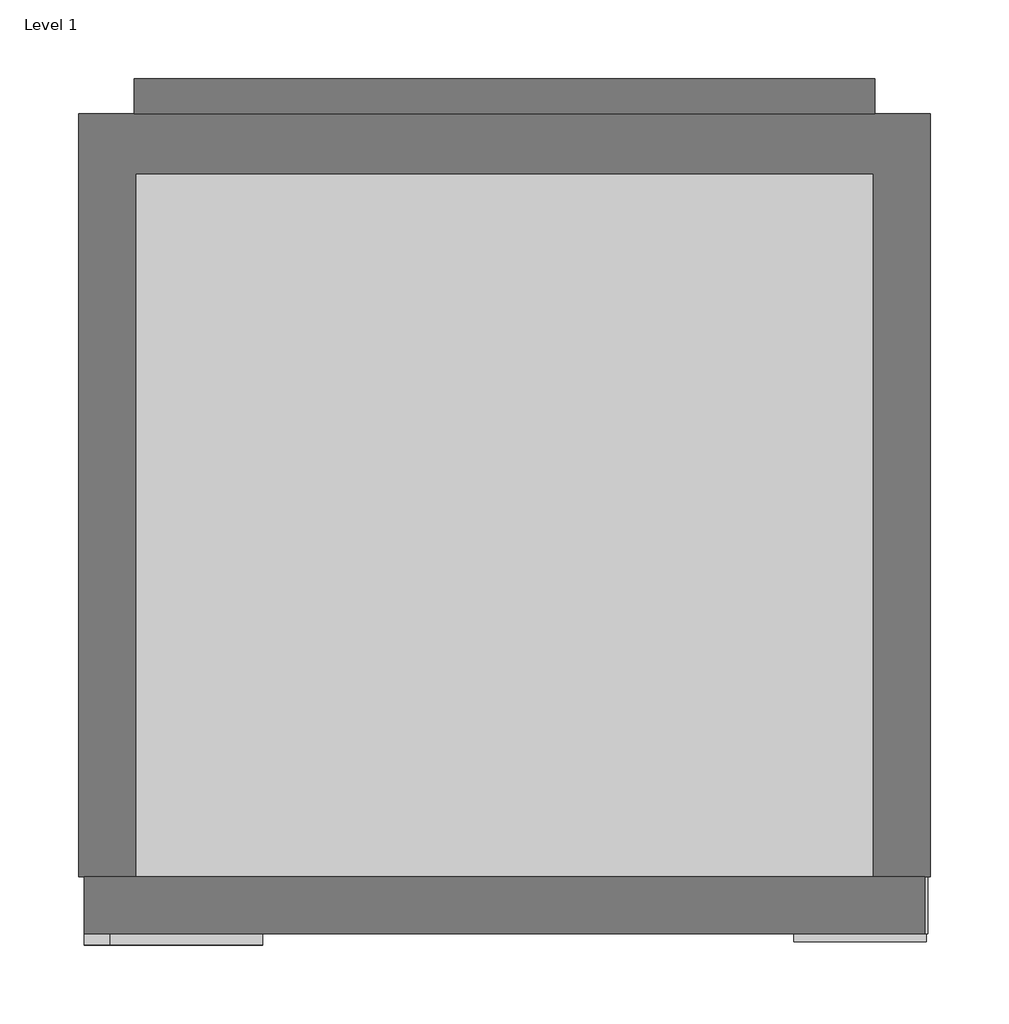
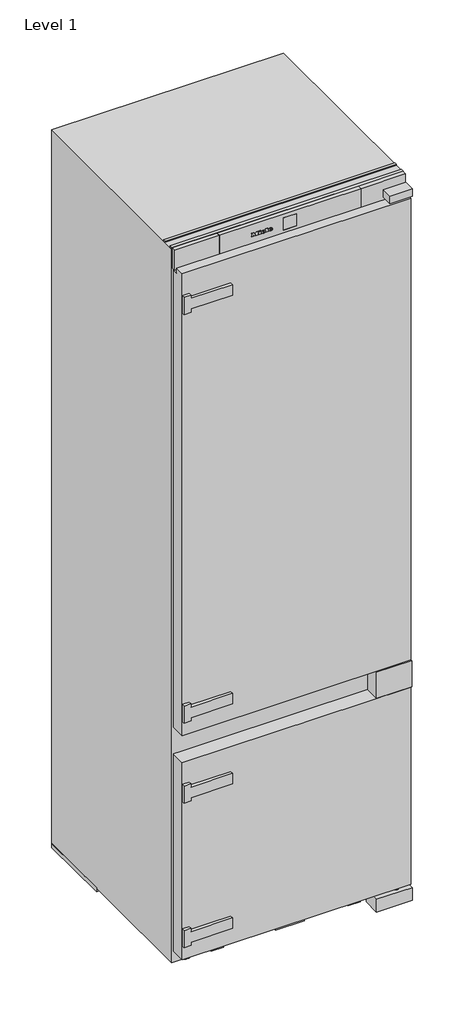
# One storey: 1 proxy.
"""IFC4 building model written with IfcOpenShell, lengths in millimetres."""

from ifc_helpers import new_model, si_unit, origin, place, context, project, spatial, transform, mapped, element, save
from components import specialty_equipment_43fbed1b

model = new_model("IFC4")

# Units and contexts
model_context = context("Model", 3, world=origin())
ifc_project = project(units=[si_unit("LENGTHUNIT", "METRE", prefix="MILLI")], contexts=[model_context])

# Site, building, storey
site = spatial("IfcSite", under=ifc_project)
building = spatial("IfcBuilding", under=site)
storey = spatial("IfcBuildingStorey", under=building, Name="Level 1", Elevation=0.0)

# Proxy
placement = place(None, origin())
specialty_equipment_shape = specialty_equipment_43fbed1b(model_context)
element("IfcBuildingElementProxy", 1, Name="11717290_OER_KF7731E : 38773100_OER_11717290_KF7731E", ObjectType="11717290_OER_KF7731E : 38773100_OER_11717290_KF7731E", at=placement, inside=storey, context=model_context, shape_type="MappedRepresentation", body=[
    mapped(specialty_equipment_shape, transform((0.0, 0.0, 0.0), x_axis=(1.0, 0.0, 0.0), y_axis=(0.0, 1.0, 0.0), z_axis=(0.0, 0.0, 1.0))),
])

save(model, "model.ifc")
